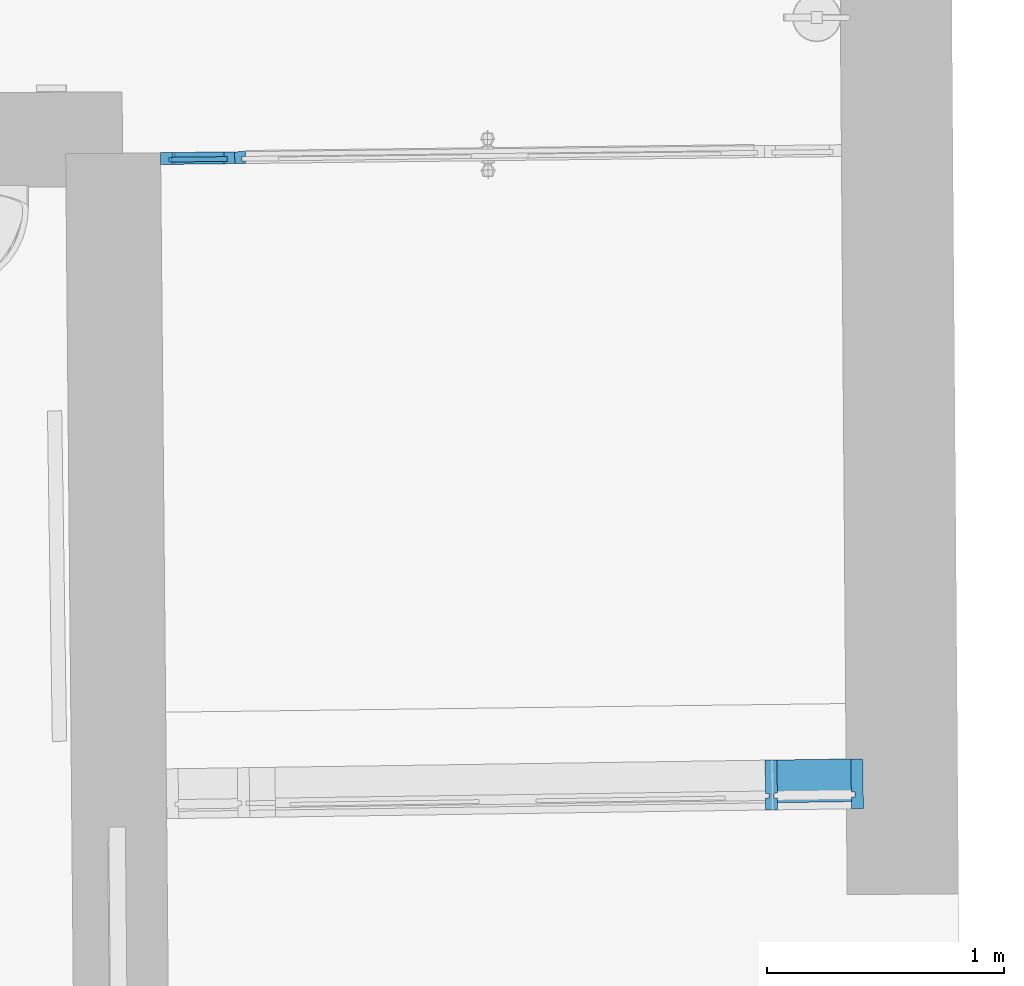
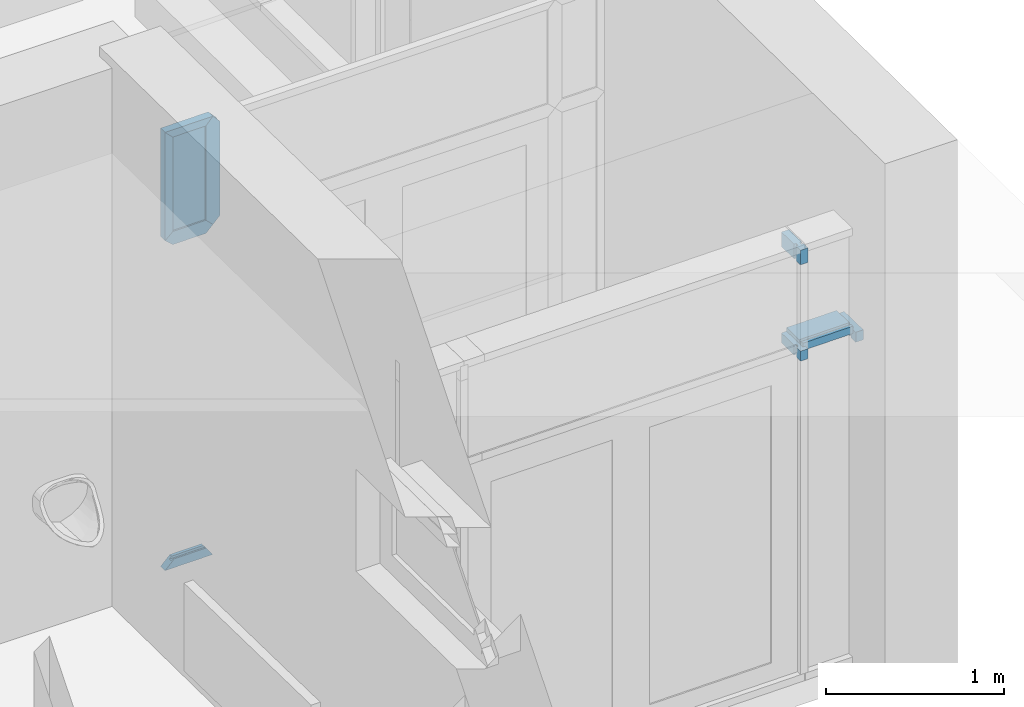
# One storey, part 157 of 196: 10 building element parts, 2 elements without a shape of their own.
"""IFC2X3 building model written with IfcOpenShell, lengths in metres."""

from ifc_helpers import new_model, entity, si_unit, converted_unit, derived_unit, money_unit, direction, frame, origin_with_axes, place, context, subcontext, project, spatial, faceted_brep, material, type_object, element, aggregate, save


model = new_model("IFC2X3")

# Units and contexts
model_context = context("Model", 3, precision=1e-05, world=origin_with_axes(), true_north=direction((0.0, 1.0)))
body_context = subcontext(model_context, "Body", "Model", "MODEL_VIEW")
ifc_project = project(units=[si_unit("LENGTHUNIT", "METRE"), si_unit("AREAUNIT", "SQUARE_METRE"), si_unit("VOLUMEUNIT", "CUBIC_METRE"), converted_unit("PLANEANGLEUNIT", "DEGREE", entity("IfcPlaneAngleMeasure", 0.0174532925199), si_unit("PLANEANGLEUNIT", "RADIAN"), dimensions=[0, 0, 0, 0, 0, 0, 0]), money_unit("EUR"), converted_unit("TIMEUNIT", "Year", entity("IfcTimeMeasure", 31556926.0), si_unit("TIMEUNIT", "SECOND"), dimensions=[0, 0, 1, 0, 0, 0, 0]), si_unit("MASSUNIT", "GRAM", prefix="KILO"), si_unit("THERMODYNAMICTEMPERATUREUNIT", "DEGREE_CELSIUS"), si_unit("LUMINOUSINTENSITYUNIT", "LUMEN"), si_unit("ENERGYUNIT", "JOULE", prefix="MEGA"), derived_unit("THERMALCONDUCTANCEUNIT", [(si_unit("POWERUNIT", "WATT"), 1), (si_unit("LENGTHUNIT", "METRE"), -1), (si_unit("THERMODYNAMICTEMPERATUREUNIT", "KELVIN"), -1)]), derived_unit("SPECIFICHEATCAPACITYUNIT", [(si_unit("ENERGYUNIT", "JOULE"), 1), (si_unit("MASSUNIT", "GRAM", prefix="KILO"), -1), (si_unit("THERMODYNAMICTEMPERATUREUNIT", "KELVIN"), -1)]), derived_unit("MASSDENSITYUNIT", [(si_unit("MASSUNIT", "GRAM", prefix="KILO"), 1), (si_unit("VOLUMEUNIT", "CUBIC_METRE"), -1)])], contexts=[model_context])

# Site, building, storey
site_placement = place(None, origin_with_axes())
site = spatial("IfcSite", under=ifc_project, at=site_placement, Name="Gelände", CompositionType="ELEMENT")
building_placement = place(site_placement, origin_with_axes())
building = spatial("IfcBuilding", under=site, at=building_placement, Name="Gebäude", CompositionType="ELEMENT")
storey_placement = place(building_placement, frame((0.0, 0.0, -3.0), z_axis=(0.0, 0.0, 1.0), x_axis=(1.0, 0.0, 0.0)))
storey = spatial("IfcBuildingStorey", under=building, at=storey_placement, Name="KELLERGESCHOSS", CompositionType="ELEMENT", Elevation=-3.0)

# Proxy, building element parts
building_element_proxy_type = type_object("IfcBuildingElementProxyType", Name="Fassadentyp", PredefinedType="NOTDEFINED")
proxy_1_placement = place(storey_placement, frame((-18.3953551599, 39.5909637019, 0.410855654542), z_axis=(0.0, 0.0, 1.0), x_axis=(1.0, 0.0, 0.0)))
proxy_1 = element("IfcBuildingElementProxy", 1, at=proxy_1_placement, inside=storey, type_object=building_element_proxy_type, Name="Fassade-002")
ifc_material_1 = material(Name="53_Metall, Aluminium")
building_element_part_1_placement = place(proxy_1_placement, origin_with_axes())
building_element_part_1 = element("IfcBuildingElementPart", 2, at=building_element_part_1_placement, material=ifc_material_1, Name="53_Metall, Aluminium", context=body_context, shape_type="Brep", body=[
    faceted_brep([(2.72315312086, 0.0494276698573, 2.25780578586), (2.72315312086, 0.0494276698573, 2.24280578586), (2.72112636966, 0.189412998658, 2.24280578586), (2.72112636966, 0.189412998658, 2.29280578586), (2.72315312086, 0.0494276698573, 2.29280578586), (2.72315312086, 0.0494276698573, 2.27780578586), (2.72344265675, 0.0294297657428, 2.27780578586), (2.72344265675, 0.0294297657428, 2.29280578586), (2.72373219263, 0.00943186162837, 2.29280578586), (2.72373219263, 0.00943186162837, 2.24280578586), (2.72344265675, 0.0294297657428, 2.24280578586), (2.72344265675, 0.0294297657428, 2.25780578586), (2.39531263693, 0.0446810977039, 2.25780578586), (2.39531263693, 0.0446810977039, 2.24280578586), (2.39328588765, 0.184666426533, 2.24280578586), (2.39328588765, 0.184666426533, 2.29280578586), (2.39531263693, 0.0446810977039, 2.29280578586), (2.39531263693, 0.0446810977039, 2.27780578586), (2.39560217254, 0.0246831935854, 2.27780578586), (2.39560217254, 0.0246831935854, 2.29280578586), (2.39589170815, 0.00468528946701, 2.29280578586), (2.39589170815, 0.00468528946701, 2.24280578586), (2.39560217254, 0.0246831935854, 2.24280578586), (2.39560217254, 0.0246831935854, 2.25780578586)], [[[0, 1, 2, 3, 4, 5, 6, 7, 8, 9, 10, 11]], [[1, 0, 12, 13]], [[1, 13, 14, 2]], [[3, 2, 14, 15]], [[4, 3, 15, 16]], [[4, 16, 17, 5]], [[5, 17, 18, 6]], [[7, 6, 18, 19]], [[19, 20, 8, 7]], [[9, 8, 20, 21]], [[22, 10, 9, 21]], [[11, 10, 22, 23]], [[0, 11, 23, 12]], [[23, 22, 21, 20, 19, 18, 17, 16, 15, 14, 13, 12]]]),
])
building_element_part_2_placement = place(proxy_1_placement, origin_with_axes())
building_element_part_2 = element("IfcBuildingElementPart", 3, at=building_element_part_2_placement, material=ifc_material_1, Name="53_Metall, Aluminium", context=body_context, shape_type="Brep", body=[
    faceted_brep([(2.73815155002, 0.049644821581, 2.26780578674), (2.73844108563, 0.0296469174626, 2.26780578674), (2.72344265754, 0.0294297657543, 2.26780578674), (2.72416649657, -0.0205649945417, 2.26780578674), (2.77416125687, -0.0198411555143, 2.26780578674), (2.77112113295, 0.190136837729, 2.26780578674), (2.72112637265, 0.189412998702, 2.26780578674), (2.72315312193, 0.0494276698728, 2.26780578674), (2.73815155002, 0.049644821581, 2.19999998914), (2.73844108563, 0.0296469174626, 2.19999998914), (2.72344265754, 0.0294297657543, 2.19999998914), (2.72416649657, -0.0205649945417, 2.19999998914), (2.77416125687, -0.0198411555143, 2.19999998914), (2.77112113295, 0.190136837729, 2.19999998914), (2.72112637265, 0.189412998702, 2.19999998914), (2.72315312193, 0.0494276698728, 2.19999998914)], [[[0, 1, 2, 3, 4, 5, 6, 7]], [[1, 0, 8, 9]], [[10, 2, 1, 9]], [[2, 10, 11, 3]], [[12, 4, 3, 11]], [[13, 5, 4, 12]], [[14, 6, 5, 13]], [[15, 7, 6, 14]], [[0, 7, 15, 8]], [[8, 15, 14, 13, 12, 11, 10, 9]]]),
])
building_element_part_3_placement = place(proxy_1_placement, origin_with_axes())
building_element_part_3 = element("IfcBuildingElementPart", 4, at=building_element_part_3_placement, material=ifc_material_1, Name="53_Metall, Aluminium", context=body_context, shape_type="Brep", body=[
    faceted_brep([(2.3964540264, 0.0446976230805, 2.26780579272), (2.41145245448, 0.0449147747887, 2.26780579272), (2.40942570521, 0.184900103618, 2.26780579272), (2.35943094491, 0.18417626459, 2.26780579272), (2.36145769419, 0.0441909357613, 2.26780579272), (2.37645612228, 0.0444080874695, 2.26780579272), (2.37674565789, 0.0244101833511, 2.26780579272), (2.3617472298, 0.0241930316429, 2.26780579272), (2.36247106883, -0.0258017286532, 2.26780579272), (2.41246582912, -0.0250778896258, 2.26780579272), (2.4117419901, 0.0249168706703, 2.26780579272), (2.39674356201, 0.0246997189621, 2.26780579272), (2.3964540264, 0.0446976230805, 2.19999998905), (2.41145245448, 0.0449147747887, 2.19999998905), (2.40942570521, 0.184900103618, 2.19999998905), (2.35943094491, 0.18417626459, 2.19999998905), (2.36145769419, 0.0441909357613, 2.19999998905), (2.37645612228, 0.0444080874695, 2.19999998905), (2.37674565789, 0.0244101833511, 2.19999998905), (2.3617472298, 0.0241930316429, 2.19999998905), (2.36247106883, -0.0258017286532, 2.19999998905), (2.41246582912, -0.0250778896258, 2.19999998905), (2.4117419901, 0.0249168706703, 2.19999998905), (2.39674356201, 0.0246997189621, 2.19999998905)], [[[0, 1, 2, 3, 4, 5, 6, 7, 8, 9, 10, 11]], [[1, 0, 12, 13]], [[1, 13, 14, 2]], [[3, 2, 14, 15]], [[4, 3, 15, 16]], [[4, 16, 17, 5]], [[5, 17, 18, 6]], [[7, 6, 18, 19]], [[19, 20, 8, 7]], [[9, 8, 20, 21]], [[22, 10, 9, 21]], [[11, 10, 22, 23]], [[0, 11, 23, 12]], [[23, 22, 21, 20, 19, 18, 17, 16, 15, 14, 13, 12]]]),
])
building_element_part_4_placement = place(proxy_1_placement, origin_with_axes())
building_element_part_4 = element("IfcBuildingElementPart", 5, at=building_element_part_4_placement, material=ifc_material_1, Name="53_Metall, Aluminium", context=body_context, shape_type="Brep", body=[
    faceted_brep([(2.39645400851, 0.0446976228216, 2.95999992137), (2.4114524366, 0.0449147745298, 2.95999992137), (2.40942568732, 0.184900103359, 2.95999992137), (2.35943092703, 0.184176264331, 2.95999992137), (2.36145767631, 0.0441909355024, 2.95999992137), (2.37645610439, 0.0444080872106, 2.95999992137), (2.37674564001, 0.0244101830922, 2.95999992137), (2.36174721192, 0.0241930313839, 2.95999992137), (2.36247105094, -0.0258017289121, 2.95999992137), (2.41246581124, -0.0250778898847, 2.95999992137), (2.41174197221, 0.0249168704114, 2.95999992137), (2.39674354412, 0.0246997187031, 2.95999992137), (2.39645400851, 0.0446976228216, 2.85999998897), (2.4114524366, 0.0449147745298, 2.85999998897), (2.40942568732, 0.184900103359, 2.85999998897), (2.35943092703, 0.184176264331, 2.85999998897), (2.36145767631, 0.0441909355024, 2.85999998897), (2.37645610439, 0.0444080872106, 2.85999998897), (2.37674564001, 0.0244101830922, 2.85999998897), (2.36174721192, 0.0241930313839, 2.85999998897), (2.36247105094, -0.0258017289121, 2.85999998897), (2.41246581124, -0.0250778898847, 2.85999998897), (2.41174197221, 0.0249168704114, 2.85999998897), (2.39674354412, 0.0246997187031, 2.85999998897)], [[[0, 1, 2, 3, 4, 5, 6, 7, 8, 9, 10, 11]], [[1, 0, 12, 13]], [[1, 13, 14, 2]], [[3, 2, 14, 15]], [[4, 3, 15, 16]], [[4, 16, 17, 5]], [[5, 17, 18, 6]], [[7, 6, 18, 19]], [[19, 20, 8, 7]], [[9, 8, 20, 21]], [[22, 10, 9, 21]], [[11, 10, 22, 23]], [[0, 11, 23, 12]], [[23, 22, 21, 20, 19, 18, 17, 16, 15, 14, 13, 12]]]),
])
aggregate(proxy_1, [building_element_part_1, building_element_part_2, building_element_part_3, building_element_part_4])

proxy_2_placement = place(storey_placement, frame((-17.1540826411, 42.3223141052, 0.417602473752), z_axis=(0.0, 0.0, 1.0), x_axis=(1.0, 0.0, 0.0)))
proxy_2 = element("IfcBuildingElementProxy", 6, at=proxy_2_placement, inside=storey, type_object=building_element_proxy_type, Name="Fassade-002")
ifc_material_2 = material(Name="45_Glas, Normalglas")
building_element_part_5_placement = place(proxy_2_placement, origin_with_axes())
building_element_part_5 = element("IfcBuildingElementPart", 7, at=building_element_part_5_placement, material=ifc_material_2, Name="45_Glas, Normalglas", context=body_context, shape_type="Brep", body=[
    faceted_brep([(-1.14683215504, -0.00341933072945, 2.96999995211), (-1.39414707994, -0.00631336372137, 2.96999995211), (-1.3939130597, -0.0263119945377, 2.96999995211), (-1.1465981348, -0.0234179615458, 2.96999995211), (-1.14683215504, -0.00341933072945, 2.29267449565), (-1.39414707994, -0.00631336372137, 2.29267449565), (-1.3939130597, -0.0263119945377, 2.29267449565), (-1.1465981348, -0.0234179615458, 2.29267449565)], [[[0, 1, 2, 3]], [[0, 4, 5, 1]], [[1, 5, 6, 2]], [[3, 2, 6, 7]], [[4, 0, 3, 7]], [[5, 4, 7, 6]]]),
])
building_element_part_6_placement = place(proxy_2_placement, origin_with_axes())
building_element_part_6 = element("IfcBuildingElementPart", 8, at=building_element_part_6_placement, material=ifc_material_1, Name="53_Metall, Aluminium", context=body_context, shape_type="Brep", body=[
    faceted_brep([(-1.39414708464, -0.00631336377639, 2.96999995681), (-1.37914811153, -0.00613784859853, 2.95499995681), (-1.37938213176, 0.0138607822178, 2.95499995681), (-1.4293787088, 0.0132757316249, 3.00499995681), (-1.42879365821, -0.0367208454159, 3.00499995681), (-1.37879708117, -0.036135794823, 2.95499995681), (-1.37891409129, -0.0261364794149, 2.95499995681), (-1.3939130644, -0.0263119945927, 2.96999995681), (-1.39414708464, -0.00631336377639, 2.29417449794), (-1.37914811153, -0.00613784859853, 2.30767449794), (-1.37938213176, 0.0138607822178, 2.30767449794), (-1.4293787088, 0.0132757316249, 2.26267449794), (-1.42879365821, -0.0367208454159, 2.26267449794), (-1.37879708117, -0.036135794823, 2.30767449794), (-1.37891409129, -0.0261364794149, 2.30767449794), (-1.3939130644, -0.0263119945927, 2.29417449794)], [[[0, 1, 2, 3, 4, 5, 6, 7]], [[0, 8, 9, 1]], [[9, 10, 2, 1]], [[10, 11, 3, 2]], [[11, 12, 4, 3]], [[12, 13, 5, 4]], [[6, 5, 13, 14]], [[14, 15, 7, 6]], [[7, 15, 8, 0]], [[8, 15, 14, 13, 12, 11, 10, 9]]]),
])
building_element_part_7_placement = place(proxy_2_placement, origin_with_axes())
building_element_part_7 = element("IfcBuildingElementPart", 9, at=building_element_part_7_placement, material=ifc_material_1, Name="53_Metall, Aluminium", context=body_context, shape_type="Brep", body=[
    faceted_brep([(-1.08683626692, -0.00271727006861, 2.97166662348), (-1.0718372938, -0.00254175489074, 2.95499995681), (-1.07207131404, 0.0174568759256, 2.95499995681), (-1.11706823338, 0.016930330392, 3.00499995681), (-1.11648318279, -0.0330662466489, 3.00499995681), (-1.07148626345, -0.0325397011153, 2.95499995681), (-1.07160327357, -0.0225403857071, 2.95499995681), (-1.08660224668, -0.022715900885, 2.97166662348), (-1.08683626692, -0.00271727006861, 2.29267449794), (-1.0718372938, -0.00254175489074, 2.30767449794), (-1.07207131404, 0.0174568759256, 2.30767449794), (-1.11706823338, 0.016930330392, 2.26267449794), (-1.16206515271, 0.0164037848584, 2.30767449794), (-1.16206515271, 0.0164037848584, 2.95499995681), (-1.16183113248, -0.00359484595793, 2.95499995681), (-1.14683215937, -0.00341933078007, 2.97166662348), (-1.14659813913, -0.0234179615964, 2.97166662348), (-1.16159711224, -0.0235934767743, 2.95499995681), (-1.16148010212, -0.0335927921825, 2.95499995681), (-1.11648318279, -0.0330662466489, 2.26267449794), (-1.07148626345, -0.0325397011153, 2.30767449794), (-1.16148010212, -0.0335927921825, 2.30767449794), (-1.07160327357, -0.0225403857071, 2.30767449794), (-1.08660224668, -0.022715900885, 2.29267449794), (-1.16159711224, -0.0235934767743, 2.30767449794), (-1.14659813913, -0.0234179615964, 2.29267449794), (-1.14683215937, -0.00341933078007, 2.29267449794), (-1.16183113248, -0.00359484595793, 2.30767449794)], [[[0, 1, 2, 3, 4, 5, 6, 7]], [[1, 0, 8, 9]], [[1, 9, 10, 2]], [[11, 12, 13, 3, 2, 10]], [[3, 13, 14, 15, 16, 17, 18, 4]], [[19, 20, 5, 4, 18, 21]], [[22, 6, 5, 20]], [[7, 6, 22, 23]], [[0, 7, 23, 8]], [[23, 22, 20, 19, 11, 10, 9, 8]], [[21, 24, 25, 26, 27, 12, 11, 19]], [[14, 13, 12, 27]], [[14, 27, 26, 15]], [[15, 26, 25, 16]], [[17, 16, 25, 24]], [[24, 21, 18, 17]]]),
])
building_element_part_8_placement = place(proxy_2_placement, origin_with_axes())
building_element_part_8 = element("IfcBuildingElementPart", 10, at=building_element_part_8_placement, material=ifc_material_1, Name="53_Metall, Aluminium", context=body_context, shape_type="Brep", body=[
    faceted_brep([(-1.15058190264, -0.00346320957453, 0.045), (-1.15034788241, -0.0234618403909, 0.045), (-1.16159711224, -0.0235934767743, 0.06), (-1.16148010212, -0.0335927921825, 0.06), (-1.11648318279, -0.0330662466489, 0.0), (-1.11706823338, 0.016930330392, 0.0), (-1.16206515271, 0.0164037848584, 0.06), (-1.16183113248, -0.00359484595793, 0.06), (-1.38414776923, -0.00619635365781, 0.045), (-1.38391374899, -0.0261949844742, 0.045), (-1.36891477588, -0.0260194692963, 0.06), (-1.36879776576, -0.0360187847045, 0.06), (-1.42879365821, -0.0367208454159, 0.0), (-1.4293787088, 0.0132757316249, 0.0), (-1.36938281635, 0.0139777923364, 0.06), (-1.36914879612, -0.00602083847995, 0.06)], [[[0, 1, 2, 3, 4, 5, 6, 7]], [[1, 0, 8, 9]], [[10, 2, 1, 9]], [[2, 10, 11, 3]], [[4, 3, 11, 12]], [[5, 4, 12, 13]], [[6, 5, 13, 14]], [[15, 7, 6, 14]], [[0, 7, 15, 8]], [[8, 15, 14, 13, 12, 11, 10, 9]]]),
])
building_element_part_9_placement = place(proxy_2_placement, origin_with_axes())
building_element_part_9 = element("IfcBuildingElementPart", 11, at=building_element_part_9_placement, material=ifc_material_1, Name="53_Metall, Aluminium", context=body_context, shape_type="Brep", body=[
    faceted_brep([(-1.14833205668, -0.00343688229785, 2.96999995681), (-1.16183113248, -0.00359484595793, 2.95499995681), (-1.16206515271, 0.0164037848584, 2.95499995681), (-1.11706823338, 0.016930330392, 3.00499995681), (-1.11648318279, -0.0330662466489, 3.00499995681), (-1.16148010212, -0.0335927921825, 2.95499995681), (-1.16159711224, -0.0235934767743, 2.95499995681), (-1.14809803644, -0.0234355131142, 2.96999995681), (-1.39414708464, -0.00631336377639, 2.96999995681), (-1.37914811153, -0.00613784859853, 2.95499995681), (-1.37938213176, 0.0138607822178, 2.95499995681), (-1.4293787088, 0.0132757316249, 3.00499995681), (-1.42879365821, -0.0367208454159, 3.00499995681), (-1.37879708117, -0.036135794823, 2.95499995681), (-1.37891409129, -0.0261364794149, 2.95499995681), (-1.3939130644, -0.0263119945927, 2.96999995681)], [[[0, 1, 2, 3, 4, 5, 6, 7]], [[0, 8, 9, 1]], [[9, 10, 2, 1]], [[2, 10, 11, 3]], [[3, 11, 12, 4]], [[4, 12, 13, 5]], [[6, 5, 13, 14]], [[14, 15, 7, 6]], [[7, 15, 8, 0]], [[8, 15, 14, 13, 12, 11, 10, 9]]]),
])
building_element_part_10_placement = place(proxy_2_placement, origin_with_axes())
building_element_part_10 = element("IfcBuildingElementPart", 12, at=building_element_part_10_placement, material=ifc_material_1, Name="53_Metall, Aluminium", context=body_context, shape_type="Brep", body=[
    faceted_brep([(-1.14683215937, -0.00341933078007, 2.23267449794), (-1.16183113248, -0.00359484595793, 2.21767449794), (-1.16206515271, 0.0164037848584, 2.21767449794), (-1.11706823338, 0.016930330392, 2.26267449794), (-1.11648318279, -0.0330662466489, 2.26267449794), (-1.16148010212, -0.0335927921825, 2.21767449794), (-1.16159711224, -0.0235934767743, 2.21767449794), (-1.14659813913, -0.0234179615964, 2.23267449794), (-1.39581363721, -0.00633286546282, 2.23267449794), (-1.37914811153, -0.00613784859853, 2.21767449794), (-1.37938213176, 0.0138607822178, 2.21767449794), (-1.4293787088, 0.0132757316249, 2.26267449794), (-1.37938213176, 0.0138607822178, 2.30767449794), (-1.16206515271, 0.0164037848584, 2.30767449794), (-1.16183113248, -0.00359484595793, 2.30767449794), (-1.14683215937, -0.00341933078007, 2.29267449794), (-1.14659813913, -0.0234179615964, 2.29267449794), (-1.16159711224, -0.0235934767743, 2.30767449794), (-1.16148010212, -0.0335927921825, 2.30767449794), (-1.42879365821, -0.0367208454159, 2.26267449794), (-1.37879708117, -0.036135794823, 2.21767449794), (-1.37879708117, -0.036135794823, 2.30767449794), (-1.37891409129, -0.0261364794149, 2.21767449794), (-1.39557961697, -0.0263314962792, 2.23267449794), (-1.37891409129, -0.0261364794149, 2.30767449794), (-1.39557961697, -0.0263314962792, 2.29267449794), (-1.39581363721, -0.00633286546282, 2.29267449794), (-1.37914811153, -0.00613784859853, 2.30767449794)], [[[0, 1, 2, 3, 4, 5, 6, 7]], [[1, 0, 8, 9]], [[1, 9, 10, 2]], [[11, 12, 13, 3, 2, 10]], [[3, 13, 14, 15, 16, 17, 18, 4]], [[19, 20, 5, 4, 18, 21]], [[22, 6, 5, 20]], [[7, 6, 22, 23]], [[0, 7, 23, 8]], [[23, 22, 20, 19, 11, 10, 9, 8]], [[21, 24, 25, 26, 27, 12, 11, 19]], [[14, 13, 12, 27]], [[14, 27, 26, 15]], [[15, 26, 25, 16]], [[17, 16, 25, 24]], [[24, 21, 18, 17]]]),
])
aggregate(proxy_2, [building_element_part_5, building_element_part_6, building_element_part_7, building_element_part_8, building_element_part_9, building_element_part_10])

save(model, "model.ifc")
